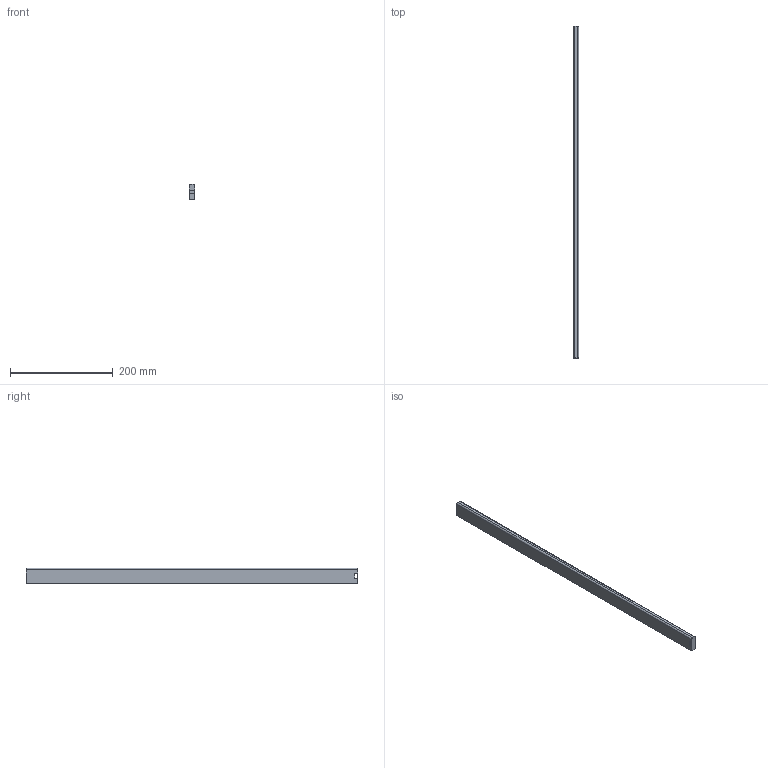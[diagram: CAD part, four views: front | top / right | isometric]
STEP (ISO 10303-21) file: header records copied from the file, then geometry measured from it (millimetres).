
FILE_DESCRIPTION (( 'STEP AP214' ), '1' );
FILE_NAME ('_Seitenreling_S610000200_RL645.step', '2010-09-06T14:51:51', ( 'grass' ), ( '' ), 'SwSTEP 2.0', 'SolidWorks 2010', '' );
FILE_SCHEMA (( 'AUTOMOTIVE_DESIGN' ));
Length unit declared in the file: millimetre
Products named in the file (1): _Seitenreling_S610000200_RL645
Bounding box: 10.5 x 645 x 30 mm (x, y, z)
Volume: 200214.8 mm3; surface area: 51386.9 mm2
Topology: 1 solids, 1 shells, 12 faces, 30 edges, 20 vertices
Faces by surface type: plane 8, cylinder 4
Entity records: 400 total; most frequent: DIRECTION 64, CARTESIAN_POINT 63, ORIENTED_EDGE 60, EDGE_CURVE 30, VECTOR 22, LINE 22, AXIS2_PLACEMENT_3D 21, VERTEX_POINT 20
